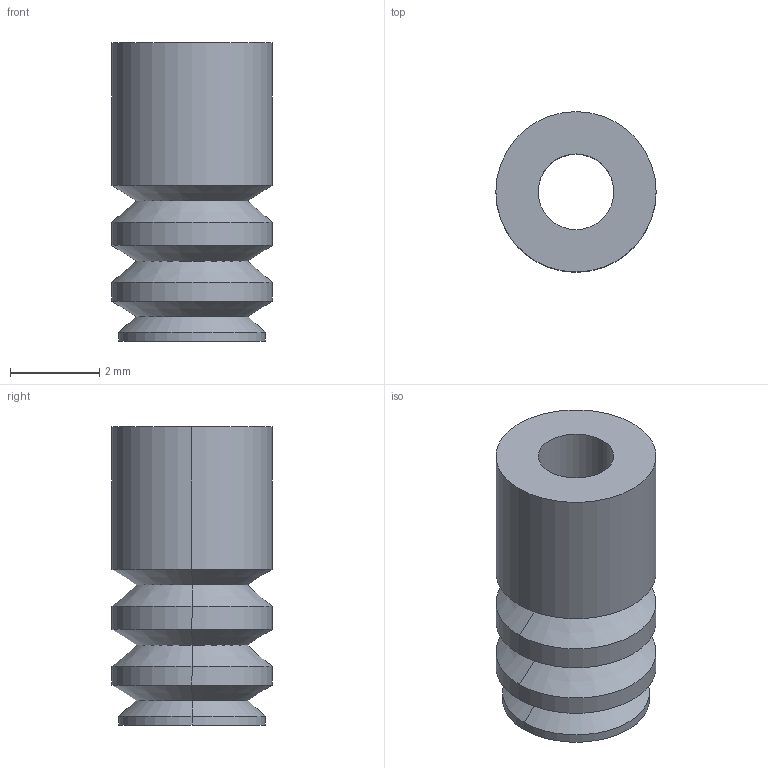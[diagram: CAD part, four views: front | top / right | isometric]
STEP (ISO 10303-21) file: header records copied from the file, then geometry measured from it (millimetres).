
FILE_DESCRIPTION(('STEP AP214'),'1');
FILE_NAME('10_01_06_04137.stp','2020-10-24T00:12:33',('TraceParts'),('TraceParts S.A.'),'Spatial InterOp 3D',' ',' ');
FILE_SCHEMA(('AUTOMOTIVE_DESIGN { 1 0 10303 214 1 1 1 1 }'));
Length unit declared in the file: millimetre
Products named in the file (1): 10_01_06_04137
Bounding box: 3.6 x 3.6 x 6.7 mm (x, y, z)
Volume: 44.1 mm3; surface area: 141.9 mm2
Topology: 1 solids, 1 shells, 36 faces, 72 edges, 42 vertices
Faces by surface type: cylinder 18, cone 12, plane 6
Entity records: 1251 total; most frequent: DIRECTION 188, CARTESIAN_POINT 151, ORIENTED_EDGE 144, AXIS2_PLACEMENT_3D 79, EDGE_CURVE 72, EDGE_LOOP 42, VERTEX_POINT 42, CIRCLE 42
